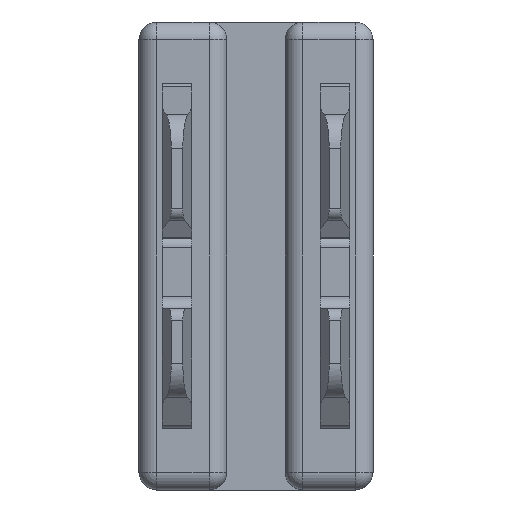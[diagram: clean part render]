
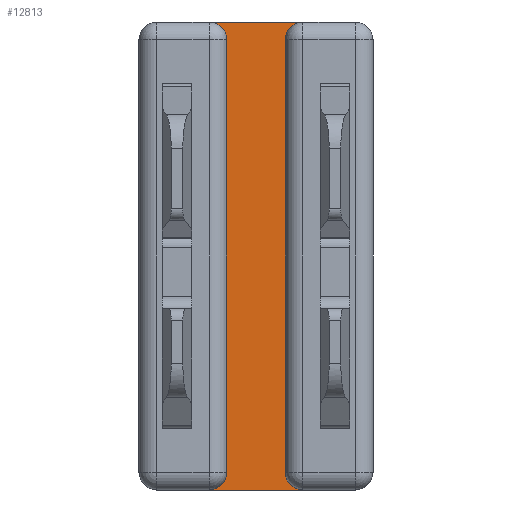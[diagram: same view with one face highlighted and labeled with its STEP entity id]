
A CAD part, front view. The second image highlights one B-rep face of the part: STEP entity #12813.
In plain terms, the highlighted planar face has unit normal (0, -1, 0).
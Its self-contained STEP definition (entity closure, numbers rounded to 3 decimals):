
#430 = CARTESIAN_POINT ( 'NONE',  ( -18.807, 1.602, 3.65 ) ) ;
#780 = AXIS2_PLACEMENT_3D ( 'NONE', #12374, #6917, #3759 ) ;
#804 = EDGE_CURVE ( 'NONE', #2655, #8235, #6368, .T. ) ;
#998 = ORIENTED_EDGE ( 'NONE', *, *, #2334, .T. ) ;
#1059 = VECTOR ( 'NONE', #8762, 1000. ) ;
#1133 = CARTESIAN_POINT ( 'NONE',  ( -20.407, 1.602, 3.65 ) ) ;
#1158 = AXIS2_PLACEMENT_3D ( 'NONE', #12766, #10605, #6286 ) ;
#1166 = ORIENTED_EDGE ( 'NONE', *, *, #6129, .T. ) ;
#1196 = CIRCLE ( 'NONE', #780, 0.3 ) ;
#1756 = VECTOR ( 'NONE', #5533, 1000. ) ;
#2334 = EDGE_CURVE ( 'NONE', #9227, #12756, #12624, .T. ) ;
#2453 = CARTESIAN_POINT ( 'NONE',  ( -20.107, 1.602, -4.05 ) ) ;
#2655 = VERTEX_POINT ( 'NONE', #13271 ) ;
#3227 = EDGE_CURVE ( 'NONE', #2655, #3254, #11400, .T. ) ;
#3251 = VERTEX_POINT ( 'NONE', #10716 ) ;
#3254 = VERTEX_POINT ( 'NONE', #4261 ) ;
#3268 = DIRECTION ( 'NONE',  ( 0., 1., 0. ) ) ;
#3494 = VERTEX_POINT ( 'NONE', #10147 ) ;
#3759 = DIRECTION ( 'NONE',  ( 0., 0., -1. ) ) ;
#4261 = CARTESIAN_POINT ( 'NONE',  ( -18.807, 1.602, 3.95 ) ) ;
#4373 = DIRECTION ( 'NONE',  ( 0., 0., -1. ) ) ;
#4404 = EDGE_LOOP ( 'NONE', ( #12326, #9097, #8845, #5384, #998, #11078, #1166, #11228 ) ) ;
#4570 = DIRECTION ( 'NONE',  ( 0., 0., -1. ) ) ;
#4755 = DIRECTION ( 'NONE',  ( 0., 0., -1. ) ) ;
#4853 = PLANE ( 'NONE',  #7204 ) ;
#4949 = CARTESIAN_POINT ( 'NONE',  ( -19.107, 1.602, -4.05 ) ) ;
#5019 = CARTESIAN_POINT ( 'NONE',  ( -20.407, 1.602, -4.05 ) ) ;
#5116 = DIRECTION ( 'NONE',  ( 0., 0., 1. ) ) ;
#5384 = ORIENTED_EDGE ( 'NONE', *, *, #6411, .T. ) ;
#5405 = CARTESIAN_POINT ( 'NONE',  ( -19.107, 1.602, 3.95 ) ) ;
#5533 = DIRECTION ( 'NONE',  ( 1., 0., 0. ) ) ;
#6129 = EDGE_CURVE ( 'NONE', #3494, #3251, #7108, .T. ) ;
#6286 = DIRECTION ( 'NONE',  ( 0., 0., -1. ) ) ;
#6368 = CIRCLE ( 'NONE', #9138, 0.3 ) ;
#6411 = EDGE_CURVE ( 'NONE', #7220, #9227, #1196, .T. ) ;
#6517 = CIRCLE ( 'NONE', #1158, 0.3 ) ;
#6917 = DIRECTION ( 'NONE',  ( 0., 1., 0. ) ) ;
#7108 = LINE ( 'NONE', #8484, #8277 ) ;
#7126 = LINE ( 'NONE', #2453, #1059 ) ;
#7204 = AXIS2_PLACEMENT_3D ( 'NONE', #9074, #8040, #4755 ) ;
#7220 = VERTEX_POINT ( 'NONE', #9852 ) ;
#8040 = DIRECTION ( 'NONE',  ( 0., -1., 0. ) ) ;
#8235 = VERTEX_POINT ( 'NONE', #10050 ) ;
#8269 = EDGE_CURVE ( 'NONE', #7220, #8235, #7126, .T. ) ;
#8277 = VECTOR ( 'NONE', #5116, 1000. ) ;
#8484 = CARTESIAN_POINT ( 'NONE',  ( -19.107, 1.602, -4.05 ) ) ;
#8762 = DIRECTION ( 'NONE',  ( 0., 0., 1. ) ) ;
#8813 = EDGE_CURVE ( 'NONE', #3251, #3254, #12713, .T. ) ;
#8828 = CARTESIAN_POINT ( 'NONE',  ( -18.807, 1.602, -4.05 ) ) ;
#8845 = ORIENTED_EDGE ( 'NONE', *, *, #8269, .F. ) ;
#9074 = CARTESIAN_POINT ( 'NONE',  ( -19.107, 1.602, -4.05 ) ) ;
#9097 = ORIENTED_EDGE ( 'NONE', *, *, #804, .T. ) ;
#9138 = AXIS2_PLACEMENT_3D ( 'NONE', #1133, #3268, #4373 ) ;
#9227 = VERTEX_POINT ( 'NONE', #5019 ) ;
#9852 = CARTESIAN_POINT ( 'NONE',  ( -20.107, 1.602, -3.75 ) ) ;
#10050 = CARTESIAN_POINT ( 'NONE',  ( -20.107, 1.602, 3.65 ) ) ;
#10147 = CARTESIAN_POINT ( 'NONE',  ( -19.107, 1.602, -3.75 ) ) ;
#10395 = VECTOR ( 'NONE', #12662, 1000. ) ;
#10605 = DIRECTION ( 'NONE',  ( 0., 1., 0. ) ) ;
#10716 = CARTESIAN_POINT ( 'NONE',  ( -19.107, 1.602, 3.65 ) ) ;
#11078 = ORIENTED_EDGE ( 'NONE', *, *, #12502, .T. ) ;
#11228 = ORIENTED_EDGE ( 'NONE', *, *, #8813, .T. ) ;
#11400 = LINE ( 'NONE', #5405, #1756 ) ;
#11576 = FACE_OUTER_BOUND ( 'NONE', #4404, .T. ) ;
#12143 = DIRECTION ( 'NONE',  ( 0., 1., 0. ) ) ;
#12326 = ORIENTED_EDGE ( 'NONE', *, *, #3227, .F. ) ;
#12374 = CARTESIAN_POINT ( 'NONE',  ( -20.407, 1.602, -3.75 ) ) ;
#12502 = EDGE_CURVE ( 'NONE', #12756, #3494, #6517, .T. ) ;
#12613 = AXIS2_PLACEMENT_3D ( 'NONE', #430, #12143, #4570 ) ;
#12624 = LINE ( 'NONE', #4949, #10395 ) ;
#12662 = DIRECTION ( 'NONE',  ( 1., 0., 0. ) ) ;
#12713 = CIRCLE ( 'NONE', #12613, 0.3 ) ;
#12756 = VERTEX_POINT ( 'NONE', #8828 ) ;
#12766 = CARTESIAN_POINT ( 'NONE',  ( -18.807, 1.602, -3.75 ) ) ;
#12813 = ADVANCED_FACE ( 'NONE', ( #11576 ), #4853, .T. ) ;
#13271 = CARTESIAN_POINT ( 'NONE',  ( -20.407, 1.602, 3.95 ) ) ;
